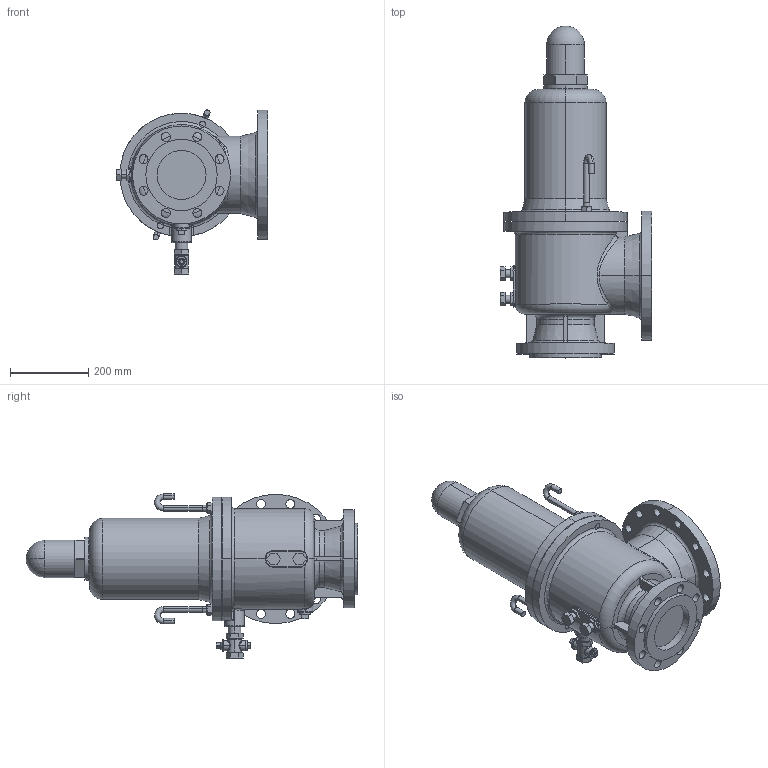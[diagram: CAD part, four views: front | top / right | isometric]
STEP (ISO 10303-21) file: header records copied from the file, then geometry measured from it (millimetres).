
FILE_DESCRIPTION (( 'STEP AP203' ), '1' );
FILE_NAME ('AF-4M 125A.STEP', '2024-08-02T02:01:43', ( '' ), ( '' ), 'SwSTEP 2.0', 'SolidWorks 2024', '' );
FILE_SCHEMA (( 'CONFIG_CONTROL_DESIGN' ));
Length unit declared in the file: millimetre
Products named in the file (8): AF-4 本体部P 125A; 背圧絞り弁 125A; プラグ 20A; ナット M16; 止めボルト 125A; AF-4M 125A; フックボルト 125A; キャップ 125A
Assembly tree (10 placements, depth 2):
  AF-4M 125A
    AF-4 本体部P 125A
    プラグ 20A
    止めボルト 125A  x2
    背圧絞り弁 125A
    フックボルト 125A  x2
    ナット M16  x2
    キャップ 125A
Bounding box: 386.5 x 847.5 x 418.9 mm (x, y, z)
Volume: 32778424 mm3; surface area: 1140671.3 mm2
Topology: 10 solids, 10 shells, 439 faces, 1087 edges, 671 vertices
Faces by surface type: plane 149, cylinder 137, cone 55, bspline 51, torus 43, sphere 4
Entity records: 17506 total; most frequent: CARTESIAN_POINT 7540, ORIENTED_EDGE 1910, DIRECTION 1861, EDGE_CURVE 955, AXIS2_PLACEMENT_3D 775, VERTEX_POINT 604, EDGE_LOOP 467, CIRCLE 420
